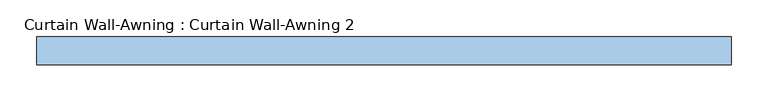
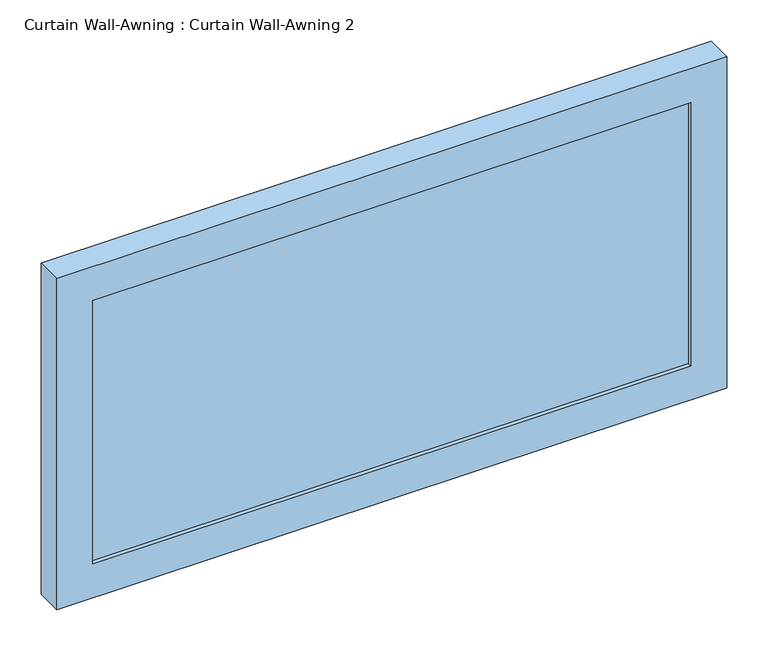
"""IFC4 building model written with IfcOpenShell, lengths in millimetres: window geometry, Curtain Wall-Awning : Curtain Wall-Awning 2."""

from ifc_helpers import new_model, si_unit, frame, origin, place, context, project, spatial, polyline, outline, extrude, source, transform, mapped, element, save


def curtain_wall_awning_curtain_wall_awning_2_86a1bd72(model_context):
    return source(origin(), model_context, "Body", "SweptSolid", [
        extrude(outline(polyline([(420.1583333, 19.05), (420.1583333, 6.35), (-420.1583333, 6.35), (-420.1583333, 19.05), (420.1583333, 19.05)])), frame((0.0, 0.0, 50.8), z_axis=(0.0, 0.0, 1.0), x_axis=(1.0, 0.0, 0.0)), (0.0, 0.0, 1.0), 391.4821279),
        extrude(outline(polyline([(493.0821279, -470.9583333), (0.0, -470.9583333), (0.0, 470.9583333), (493.0821279, 470.9583333), (493.0821279, -470.9583333)]), holes=[polyline([(442.2821279, -420.1583333), (442.2821279, 420.1583333), (50.8, 420.1583333), (50.8, -420.1583333), (442.2821279, -420.1583333)])]), frame((0.0, 0.0, 0.0), z_axis=(0.0, 1.0, 0.0), x_axis=(0.0, 0.0, 1.0)), (0.0, 0.0, 1.0), 38.1),
    ])


if __name__ == "__main__":
    model = new_model("IFC4")
    model_context = context("Model", 3, world=origin())
    ifc_project = project(units=[si_unit("LENGTHUNIT", "METRE", prefix="MILLI")], contexts=[model_context])
    site = spatial("IfcSite", under=ifc_project)
    building = spatial("IfcBuilding", under=site)
    placement = place(None, origin())
    curtain_wall_awning_curtain_wall_awning_2_shape = curtain_wall_awning_curtain_wall_awning_2_86a1bd72(model_context)
    element("IfcWindow", 1, ObjectType="Curtain Wall-Awning : Curtain Wall-Awning 2", at=placement, inside=building, context=model_context, shape_type="MappedRepresentation", body=[
        mapped(curtain_wall_awning_curtain_wall_awning_2_shape, transform((0.0, 0.0, 0.0), x_axis=(1.0, 0.0, 0.0), y_axis=(0.0, 1.0, 0.0), z_axis=(0.0, 0.0, 1.0))),
    ])
    save(model, "model.ifc")
